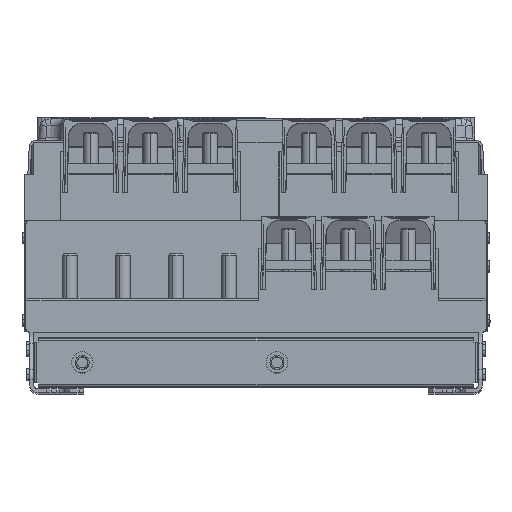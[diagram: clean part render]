
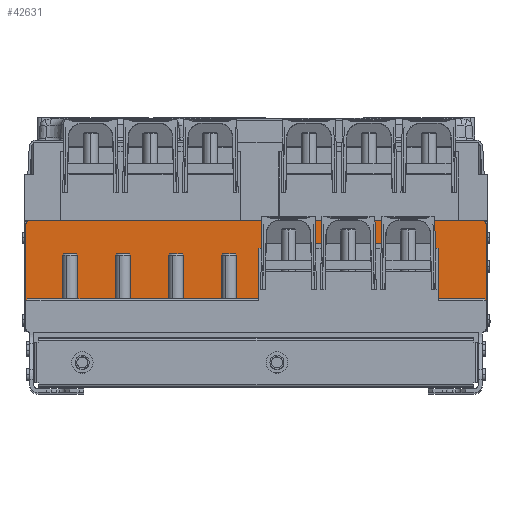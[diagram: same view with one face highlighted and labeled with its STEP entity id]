
A CAD part, top view. The second image highlights one B-rep face of the part: STEP entity #42631.
In plain terms, the highlighted planar face has unit normal (0, 0, 1).
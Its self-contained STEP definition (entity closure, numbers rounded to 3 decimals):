
#913 = CARTESIAN_POINT ( 'NONE',  ( -247., 115., 179. ) ) ;
#1230 = LINE ( 'NONE', #70798, #71745 ) ;
#1407 = EDGE_CURVE ( 'NONE', #29497, #62725, #1230, .T. ) ;
#2314 = CARTESIAN_POINT ( 'NONE',  ( 2.806, 35., 179. ) ) ;
#3070 = CARTESIAN_POINT ( 'NONE',  ( 243., 115., 179. ) ) ;
#3147 = AXIS2_PLACEMENT_3D ( 'NONE', #3070, #58798, #15491 ) ;
#3886 = DIRECTION ( 'NONE',  ( 0., -1., 0. ) ) ;
#4533 = CARTESIAN_POINT ( 'NONE',  ( 247., 115., 179. ) ) ;
#4867 = LINE ( 'NONE', #32463, #38199 ) ;
#5193 = CARTESIAN_POINT ( 'NONE',  ( 2.806, 89., 179. ) ) ;
#5222 = EDGE_CURVE ( 'NONE', #5913, #30409, #38437, .T. ) ;
#5352 = CARTESIAN_POINT ( 'NONE',  ( 5.351, 63.129, 179. ) ) ;
#5710 = CARTESIAN_POINT ( 'NONE',  ( 245., 35., 179. ) ) ;
#5913 = VERTEX_POINT ( 'NONE', #21649 ) ;
#5941 = CARTESIAN_POINT ( 'NONE',  ( -247., 31., 179. ) ) ;
#9237 = ORIENTED_EDGE ( 'NONE', *, *, #72247, .F. ) ;
#9413 = CARTESIAN_POINT ( 'NONE',  ( -247., 1., 179. ) ) ;
#10281 = VECTOR ( 'NONE', #76088, 1000. ) ;
#11608 = CARTESIAN_POINT ( 'NONE',  ( 192.423, 94.2, 179. ) ) ;
#12141 = CARTESIAN_POINT ( 'NONE',  ( 2.806, 89., 179. ) ) ;
#13028 = LINE ( 'NONE', #5710, #13207 ) ;
#13207 = VECTOR ( 'NONE', #27721, 1000. ) ;
#13566 = LINE ( 'NONE', #68889, #85249 ) ;
#15117 = VERTEX_POINT ( 'NONE', #24706 ) ;
#15485 = VERTEX_POINT ( 'NONE', #2314 ) ;
#15491 = DIRECTION ( 'NONE',  ( 1., 0., 0. ) ) ;
#15733 = VECTOR ( 'NONE', #87860, 1000. ) ;
#16456 = ORIENTED_EDGE ( 'NONE', *, *, #5222, .F. ) ;
#17375 = CIRCLE ( 'NONE', #64401, 4. ) ;
#17556 = DIRECTION ( 'NONE',  ( 1., 0., 0. ) ) ;
#18203 = CARTESIAN_POINT ( 'NONE',  ( 5.894, 94.2, 179. ) ) ;
#19907 = CARTESIAN_POINT ( 'NONE',  ( -247., 33., 179. ) ) ;
#20206 = ORIENTED_EDGE ( 'NONE', *, *, #53632, .T. ) ;
#20851 = ORIENTED_EDGE ( 'NONE', *, *, #47376, .T. ) ;
#21649 = CARTESIAN_POINT ( 'NONE',  ( 243., 119., 179. ) ) ;
#22085 = ORIENTED_EDGE ( 'NONE', *, *, #39233, .T. ) ;
#23246 = EDGE_LOOP ( 'NONE', ( #87091, #23531, #50880, #70868, #67382, #22085, #69739, #83245, #16456, #38811, #73863, #9237, #20206, #20851, #77333, #90912 ) ) ;
#23259 = DIRECTION ( 'NONE',  ( 1., 0., 0. ) ) ;
#23531 = ORIENTED_EDGE ( 'NONE', *, *, #31564, .T. ) ;
#23620 = VERTEX_POINT ( 'NONE', #38056 ) ;
#23789 = EDGE_CURVE ( 'NONE', #47534, #53131, #45466, .T. ) ;
#23979 = LINE ( 'NONE', #60397, #28565 ) ;
#24706 = CARTESIAN_POINT ( 'NONE',  ( -245., 35., 179. ) ) ;
#24912 = LINE ( 'NONE', #47018, #61501 ) ;
#25144 = VERTEX_POINT ( 'NONE', #12141 ) ;
#26798 = EDGE_CURVE ( 'NONE', #63715, #45089, #13028, .T. ) ;
#27721 = DIRECTION ( 'NONE',  ( 0.707, -0.707, 0. ) ) ;
#28565 = VECTOR ( 'NONE', #17556, 1000. ) ;
#29176 = DIRECTION ( 'NONE',  ( 0., 0., -1. ) ) ;
#29497 = VERTEX_POINT ( 'NONE', #11608 ) ;
#30409 = VERTEX_POINT ( 'NONE', #4533 ) ;
#30826 = VERTEX_POINT ( 'NONE', #46332 ) ;
#31564 = EDGE_CURVE ( 'NONE', #47534, #29497, #23979, .T. ) ;
#32463 = CARTESIAN_POINT ( 'NONE',  ( -247., 35., 179. ) ) ;
#33113 = LINE ( 'NONE', #48330, #42766 ) ;
#33586 = VERTEX_POINT ( 'NONE', #54826 ) ;
#34758 = VECTOR ( 'NONE', #23259, 1000. ) ;
#35735 = DIRECTION ( 'NONE',  ( 0.017, -1., 0. ) ) ;
#37244 = CARTESIAN_POINT ( 'NONE',  ( 5.803, 89., 179. ) ) ;
#38056 = CARTESIAN_POINT ( 'NONE',  ( -243., 119., 179. ) ) ;
#38199 = VECTOR ( 'NONE', #40293, 1000. ) ;
#38437 = CIRCLE ( 'NONE', #3147, 4. ) ;
#38811 = ORIENTED_EDGE ( 'NONE', *, *, #40430, .F. ) ;
#39233 = EDGE_CURVE ( 'NONE', #30826, #63715, #4867, .T. ) ;
#40293 = DIRECTION ( 'NONE',  ( 1., 0., 0. ) ) ;
#40430 = EDGE_CURVE ( 'NONE', #23620, #5913, #74470, .T. ) ;
#40913 = FACE_OUTER_BOUND ( 'NONE', #23246, .T. ) ;
#41385 = DIRECTION ( 'NONE',  ( 0., 1., 0. ) ) ;
#42631 = ADVANCED_FACE ( 'NONE', ( #40913 ), #69039, .T. ) ;
#42766 = VECTOR ( 'NONE', #41385, 1000. ) ;
#43212 = AXIS2_PLACEMENT_3D ( 'NONE', #5941, #62121, #51037 ) ;
#45089 = VERTEX_POINT ( 'NONE', #66978 ) ;
#45466 = LINE ( 'NONE', #5352, #15733 ) ;
#46332 = CARTESIAN_POINT ( 'NONE',  ( 195.511, 35., 179. ) ) ;
#46361 = VERTEX_POINT ( 'NONE', #19907 ) ;
#46668 = CARTESIAN_POINT ( 'NONE',  ( 190.479, 89., 179. ) ) ;
#47018 = CARTESIAN_POINT ( 'NONE',  ( 195.511, 89., 179. ) ) ;
#47376 = EDGE_CURVE ( 'NONE', #15117, #15485, #52778, .T. ) ;
#47534 = VERTEX_POINT ( 'NONE', #18203 ) ;
#48330 = CARTESIAN_POINT ( 'NONE',  ( 2.806, 35., 179. ) ) ;
#48826 = EDGE_CURVE ( 'NONE', #63307, #23620, #17375, .T. ) ;
#50798 = EDGE_CURVE ( 'NONE', #33586, #30826, #24912, .T. ) ;
#50880 = ORIENTED_EDGE ( 'NONE', *, *, #1407, .T. ) ;
#51037 = DIRECTION ( 'NONE',  ( 1., 0., 0. ) ) ;
#51503 = EDGE_CURVE ( 'NONE', #25144, #53131, #76073, .T. ) ;
#52778 = LINE ( 'NONE', #86422, #34758 ) ;
#53131 = VERTEX_POINT ( 'NONE', #37244 ) ;
#53632 = EDGE_CURVE ( 'NONE', #46361, #15117, #13566, .T. ) ;
#53733 = CARTESIAN_POINT ( 'NONE',  ( -243., 119., 179. ) ) ;
#54043 = VECTOR ( 'NONE', #84501, 1000. ) ;
#54826 = CARTESIAN_POINT ( 'NONE',  ( 195.511, 89., 179. ) ) ;
#55354 = DIRECTION ( 'NONE',  ( 1., 0., 0. ) ) ;
#56453 = EDGE_CURVE ( 'NONE', #62725, #33586, #81672, .T. ) ;
#57302 = DIRECTION ( 'NONE',  ( 1., 0., 0. ) ) ;
#58334 = EDGE_CURVE ( 'NONE', #30409, #45089, #89988, .T. ) ;
#58798 = DIRECTION ( 'NONE',  ( 0., 0., -1. ) ) ;
#60397 = CARTESIAN_POINT ( 'NONE',  ( -44.533, 94.2, 179. ) ) ;
#60417 = DIRECTION ( 'NONE',  ( 0., -1., 0. ) ) ;
#61501 = VECTOR ( 'NONE', #60417, 1000. ) ;
#62121 = DIRECTION ( 'NONE',  ( 0., 0., 1. ) ) ;
#62399 = CARTESIAN_POINT ( 'NONE',  ( -243., 115., 179. ) ) ;
#62725 = VERTEX_POINT ( 'NONE', #67430 ) ;
#63307 = VERTEX_POINT ( 'NONE', #913 ) ;
#63715 = VERTEX_POINT ( 'NONE', #90984 ) ;
#64401 = AXIS2_PLACEMENT_3D ( 'NONE', #62399, #29176, #57302 ) ;
#66978 = CARTESIAN_POINT ( 'NONE',  ( 247., 33., 179. ) ) ;
#67382 = ORIENTED_EDGE ( 'NONE', *, *, #50798, .T. ) ;
#67430 = CARTESIAN_POINT ( 'NONE',  ( 192.514, 89., 179. ) ) ;
#68889 = CARTESIAN_POINT ( 'NONE',  ( -245., 35., 179. ) ) ;
#69039 = PLANE ( 'NONE',  #43212 ) ;
#69739 = ORIENTED_EDGE ( 'NONE', *, *, #26798, .T. ) ;
#70798 = CARTESIAN_POINT ( 'NONE',  ( 192.965, 63.129, 179. ) ) ;
#70868 = ORIENTED_EDGE ( 'NONE', *, *, #56453, .T. ) ;
#71745 = VECTOR ( 'NONE', #35735, 1000. ) ;
#72247 = EDGE_CURVE ( 'NONE', #46361, #63307, #72515, .T. ) ;
#72515 = LINE ( 'NONE', #9413, #54043 ) ;
#73570 = DIRECTION ( 'NONE',  ( 1., 0., 0. ) ) ;
#73863 = ORIENTED_EDGE ( 'NONE', *, *, #48826, .F. ) ;
#74470 = LINE ( 'NONE', #53733, #88347 ) ;
#76073 = LINE ( 'NONE', #5193, #76338 ) ;
#76088 = DIRECTION ( 'NONE',  ( 1., 0., 0. ) ) ;
#76338 = VECTOR ( 'NONE', #55354, 1000. ) ;
#77333 = ORIENTED_EDGE ( 'NONE', *, *, #80949, .T. ) ;
#80949 = EDGE_CURVE ( 'NONE', #15485, #25144, #33113, .T. ) ;
#81672 = LINE ( 'NONE', #46668, #10281 ) ;
#82586 = CARTESIAN_POINT ( 'NONE',  ( 247., 115., 179. ) ) ;
#83245 = ORIENTED_EDGE ( 'NONE', *, *, #58334, .F. ) ;
#84102 = VECTOR ( 'NONE', #3886, 1000. ) ;
#84501 = DIRECTION ( 'NONE',  ( 0., 1., 0. ) ) ;
#85249 = VECTOR ( 'NONE', #90101, 1000. ) ;
#86422 = CARTESIAN_POINT ( 'NONE',  ( -247., 35., 179. ) ) ;
#87091 = ORIENTED_EDGE ( 'NONE', *, *, #23789, .F. ) ;
#87860 = DIRECTION ( 'NONE',  ( -0.017, -1., 0. ) ) ;
#88347 = VECTOR ( 'NONE', #73570, 1000. ) ;
#89988 = LINE ( 'NONE', #82586, #84102 ) ;
#90101 = DIRECTION ( 'NONE',  ( 0.707, 0.707, 0. ) ) ;
#90912 = ORIENTED_EDGE ( 'NONE', *, *, #51503, .T. ) ;
#90984 = CARTESIAN_POINT ( 'NONE',  ( 245., 35., 179. ) ) ;
